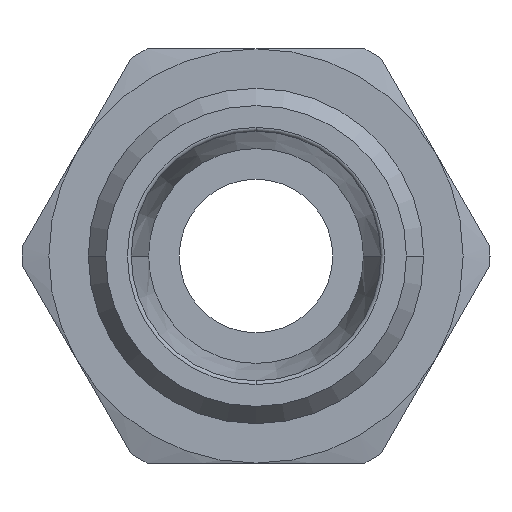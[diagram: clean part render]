
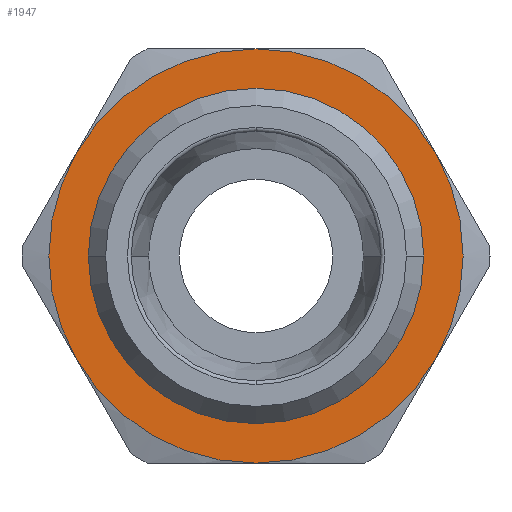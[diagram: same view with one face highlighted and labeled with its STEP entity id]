
A CAD part, left-side view. The second image highlights one B-rep face of the part: STEP entity #1947.
In plain terms, the highlighted planar face has unit normal (-1, 0, 0) as drawn and (0, 0, 1) by its records, which use the part's own axes.
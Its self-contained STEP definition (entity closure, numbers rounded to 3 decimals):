
#857=CARTESIAN_POINT('',(-10.8,0.,5.0));
#858=VERTEX_POINT('',#857);
#884=CARTESIAN_POINT('',(10.8,0.,5.0));
#885=VERTEX_POINT('',#884);
#893=CARTESIAN_POINT('',(0.,0.,5.0));
#894=DIRECTION('',(0.0,0.0,1.0));
#895=DIRECTION('',(-1.0,0.0,0.0));
#896=AXIS2_PLACEMENT_3D('',#893,#894,#895);
#897=CIRCLE('',#896,10.8);
#898=EDGE_CURVE('',#885,#858,#897,.T.);
#1827=CARTESIAN_POINT('',(0.,-10.8,5.));
#1828=VERTEX_POINT('',#1827);
#1829=CARTESIAN_POINT('',(0.,0.,5.0));
#1830=DIRECTION('',(0.0,0.0,1.0));
#1831=DIRECTION('',(-1.0,0.0,0.0));
#1832=AXIS2_PLACEMENT_3D('',#1829,#1830,#1831);
#1833=CIRCLE('',#1832,10.8);
#1834=EDGE_CURVE('',#858,#1828,#1833,.T.);
#1836=CARTESIAN_POINT('',(0.,0.,5.0));
#1837=DIRECTION('',(0.0,0.0,1.0));
#1838=DIRECTION('',(-1.0,0.0,0.0));
#1839=AXIS2_PLACEMENT_3D('',#1836,#1837,#1838);
#1840=CIRCLE('',#1839,10.8);
#1841=EDGE_CURVE('',#1828,#885,#1840,.T.);
#1881=CARTESIAN_POINT('',(0.,0.,5.0));
#1882=DIRECTION('',(0.0,0.0,1.0));
#1883=DIRECTION('',(1.0,0.0,0.0));
#1884=AXIS2_PLACEMENT_3D('',#1881,#1882,#1883);
#1885=PLANE('',#1884);
#1886=CARTESIAN_POINT('',(6.75,-11.691,5.));
#1887=VERTEX_POINT('',#1886);
#1888=CARTESIAN_POINT('',(13.5,0.0,5.));
#1889=VERTEX_POINT('',#1888);
#1890=CARTESIAN_POINT('',(0.,0.0,5.0));
#1891=DIRECTION('',(0.0,0.0,1.0));
#1892=DIRECTION('',(1.0,0.0,0.0));
#1893=AXIS2_PLACEMENT_3D('',#1890,#1891,#1892);
#1894=CIRCLE('',#1893,13.5);
#1895=EDGE_CURVE('',#1887,#1889,#1894,.T.);
#1896=ORIENTED_EDGE('',*,*,#1895,.T.);
#1897=CARTESIAN_POINT('',(6.75,11.691,5.));
#1898=VERTEX_POINT('',#1897);
#1899=CARTESIAN_POINT('',(0.,0.0,5.0));
#1900=DIRECTION('',(0.0,0.0,1.0));
#1901=DIRECTION('',(1.0,0.0,0.0));
#1902=AXIS2_PLACEMENT_3D('',#1899,#1900,#1901);
#1903=CIRCLE('',#1902,13.5);
#1904=EDGE_CURVE('',#1889,#1898,#1903,.T.);
#1905=ORIENTED_EDGE('',*,*,#1904,.T.);
#1906=CARTESIAN_POINT('',(-6.75,11.691,5.));
#1907=VERTEX_POINT('',#1906);
#1908=CARTESIAN_POINT('',(0.,0.0,5.0));
#1909=DIRECTION('',(0.0,0.0,1.0));
#1910=DIRECTION('',(1.0,0.0,0.0));
#1911=AXIS2_PLACEMENT_3D('',#1908,#1909,#1910);
#1912=CIRCLE('',#1911,13.5);
#1913=EDGE_CURVE('',#1898,#1907,#1912,.T.);
#1914=ORIENTED_EDGE('',*,*,#1913,.T.);
#1915=CARTESIAN_POINT('',(-13.5,0.,5.));
#1916=VERTEX_POINT('',#1915);
#1917=CARTESIAN_POINT('',(0.,0.0,5.0));
#1918=DIRECTION('',(0.0,0.0,1.0));
#1919=DIRECTION('',(1.0,0.0,0.0));
#1920=AXIS2_PLACEMENT_3D('',#1917,#1918,#1919);
#1921=CIRCLE('',#1920,13.5);
#1922=EDGE_CURVE('',#1907,#1916,#1921,.T.);
#1923=ORIENTED_EDGE('',*,*,#1922,.T.);
#1924=CARTESIAN_POINT('',(-6.75,-11.691,5.));
#1925=VERTEX_POINT('',#1924);
#1926=CARTESIAN_POINT('',(0.,0.0,5.0));
#1927=DIRECTION('',(0.0,0.0,1.0));
#1928=DIRECTION('',(1.0,0.0,0.0));
#1929=AXIS2_PLACEMENT_3D('',#1926,#1927,#1928);
#1930=CIRCLE('',#1929,13.5);
#1931=EDGE_CURVE('',#1916,#1925,#1930,.T.);
#1932=ORIENTED_EDGE('',*,*,#1931,.T.);
#1933=CARTESIAN_POINT('',(0.,0.0,5.0));
#1934=DIRECTION('',(0.0,0.0,1.0));
#1935=DIRECTION('',(1.0,0.0,0.0));
#1936=AXIS2_PLACEMENT_3D('',#1933,#1934,#1935);
#1937=CIRCLE('',#1936,13.5);
#1938=EDGE_CURVE('',#1925,#1887,#1937,.T.);
#1939=ORIENTED_EDGE('',*,*,#1938,.T.);
#1940=EDGE_LOOP('',(#1896,#1905,#1914,#1923,#1932,#1939));
#1941=FACE_OUTER_BOUND('',#1940,.T.);
#1942=ORIENTED_EDGE('',*,*,#1841,.F.);
#1943=ORIENTED_EDGE('',*,*,#1834,.F.);
#1944=ORIENTED_EDGE('',*,*,#898,.F.);
#1945=EDGE_LOOP('',(#1942,#1943,#1944));
#1946=FACE_BOUND('',#1945,.T.);
#1947=ADVANCED_FACE('',(#1941,#1946),#1885,.T.);
